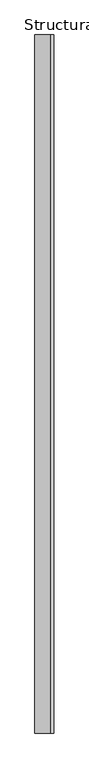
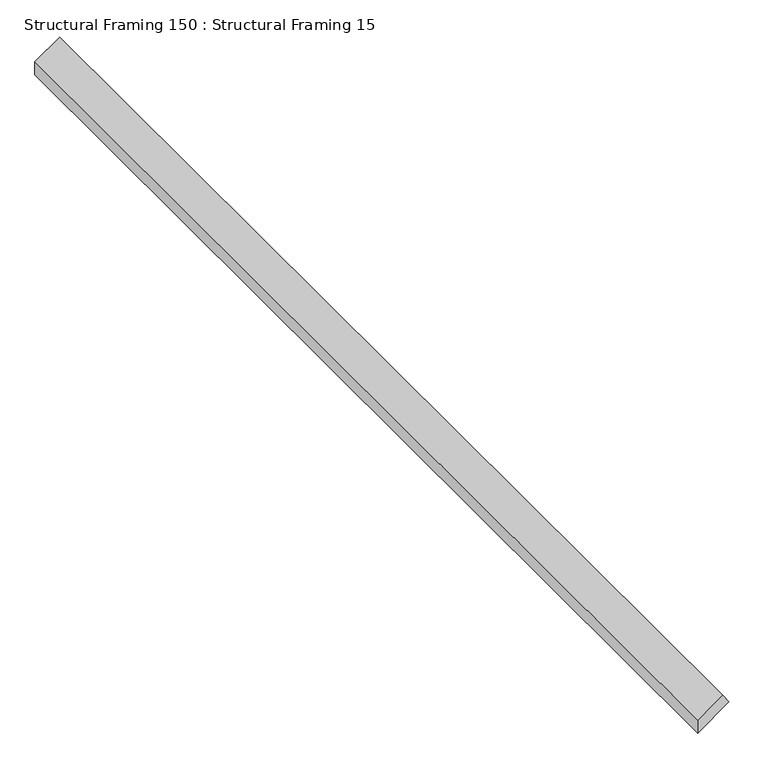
"""IFC4 building model written with IfcOpenShell, lengths in millimetres: beam geometry, Structural Framing 150 : Structural Framing 15."""

from ifc_helpers import new_model, si_unit, frame, origin, place, context, project, spatial, polyline, outline, extrude, source, transform, mapped, element, save


def structural_framing_150_structural_framing_15_f334a7cf(model_context):
    return source(origin(), model_context, "Body", "SweptSolid", [
        extrude(outline(polyline([(100.0, -2649.2207109), (120.4788011, -2663.5601218), (81.6513175, -2719.0115151), (51.1319528, -2719.0115151), (100.0, -2649.2207109)])), frame((0.0, -6702.9048058, 0.0), z_axis=(0.0, 1.0, 0.0), x_axis=(0.0, 0.0, 1.0)), (0.0, 0.0, 1.0), 2558.455608),
    ])


if __name__ == "__main__":
    model = new_model("IFC4")
    model_context = context("Model", 3, world=origin())
    ifc_project = project(units=[si_unit("LENGTHUNIT", "METRE", prefix="MILLI")], contexts=[model_context])
    site = spatial("IfcSite", under=ifc_project)
    building = spatial("IfcBuilding", under=site)
    placement = place(None, origin())
    structural_framing_150_structural_framing_15_shape = structural_framing_150_structural_framing_15_f334a7cf(model_context)
    element("IfcBeam", 1, ObjectType="Structural Framing 150 : Structural Framing 15", at=placement, inside=building, context=model_context, shape_type="MappedRepresentation", body=[
        mapped(structural_framing_150_structural_framing_15_shape, transform((0.0, 0.0, 0.0), x_axis=(1.0, 0.0, 0.0), y_axis=(0.0, 1.0, 0.0), z_axis=(0.0, 0.0, 1.0))),
    ])
    save(model, "model.ifc")
